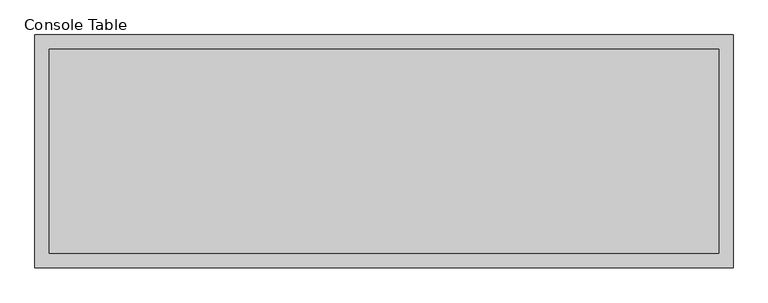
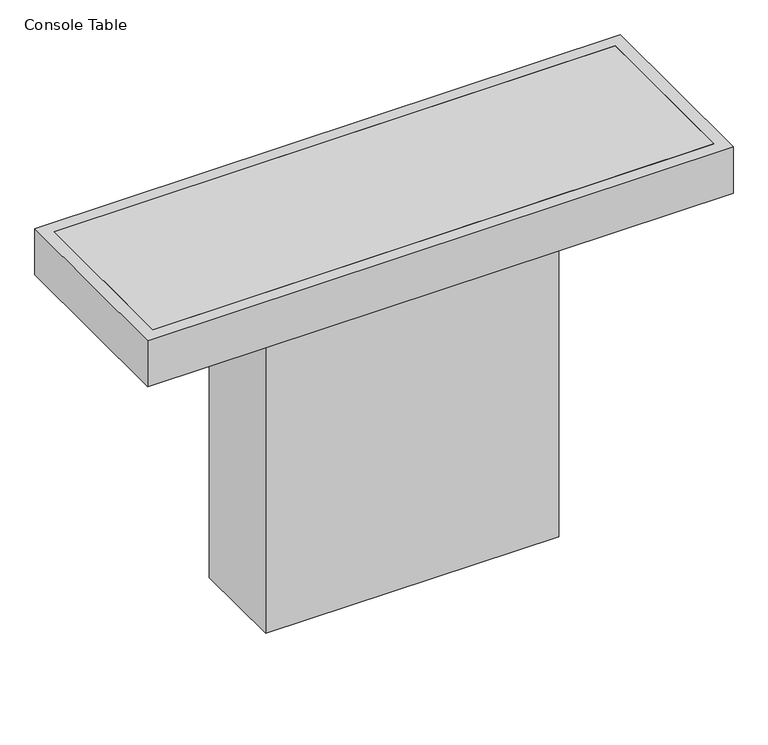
"""IFC4 building model written with IfcOpenShell, lengths in millimetres: furniture geometry."""

from ifc_helpers import new_model, si_unit, frame, origin, origin_with_axes, place, context, project, spatial, polyline, outline, extrude, source, transform, mapped, element, save


def console_table_1e0c4b9e(model_context):
    return source(origin(), model_context, "Body", "SweptSolid", [
        extrude(outline(polyline([(304.8, 101.6), (304.8, -101.6), (-304.8, -101.6), (-304.8, 101.6), (304.8, 101.6)])), origin_with_axes(), (0.0, 0.0, 1.0), 787.4),
        extrude(outline(polyline([(-584.2, -177.8), (-584.2, 177.8), (584.2, 177.8), (584.2, -177.8), (-584.2, -177.8)])), frame((0.0, 0.0, 787.4), z_axis=(0.0, 0.0, 1.0), x_axis=(1.0, 0.0, 0.0)), (0.0, 0.0, 1.0), 25.4),
        extrude(outline(polyline([(609.6, 203.2), (609.6, -203.2), (-609.6, -203.2), (-609.6, 203.2), (609.6, 203.2)]), holes=[polyline([(584.2, 177.8), (-584.2, 177.8), (-584.2, -177.8), (584.2, -177.8), (584.2, 177.8)])]), frame((0.0, 0.0, 711.2), z_axis=(0.0, 0.0, 1.0), x_axis=(1.0, 0.0, 0.0)), (0.0, 0.0, 1.0), 101.6),
    ])


if __name__ == "__main__":
    model = new_model("IFC4")
    model_context = context("Model", 3, world=origin())
    ifc_project = project(units=[si_unit("LENGTHUNIT", "METRE", prefix="MILLI")], contexts=[model_context])
    site = spatial("IfcSite", under=ifc_project)
    building = spatial("IfcBuilding", under=site)
    placement = place(None, origin())
    console_table_shape = console_table_1e0c4b9e(model_context)
    element("IfcFurniture", 1, ObjectType="Console Table : 48\" L x 16\" W x 32\" H", at=placement, inside=building, context=model_context, shape_type="MappedRepresentation", body=[
        mapped(console_table_shape, transform((0.0, 0.0, 0.0), x_axis=(1.0, 0.0, 0.0), y_axis=(0.0, 1.0, 0.0), z_axis=(0.0, 0.0, 1.0))),
    ])
    save(model, "model.ifc")
